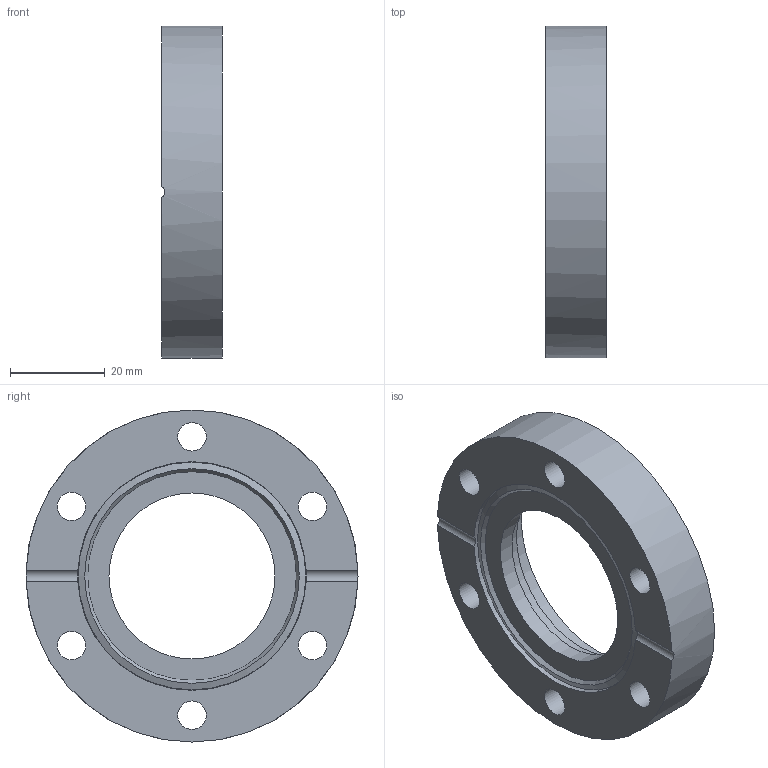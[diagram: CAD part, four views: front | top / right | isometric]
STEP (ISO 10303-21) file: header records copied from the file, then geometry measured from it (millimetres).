
FILE_DESCRIPTION( ( 'Unknown' ), '1' );
FILE_NAME( 'X:/Daten ( aktueller Bestand )/Projekte und Zeichnungen/Solid Edge/STP-Dateien/CF-Teile/7512R3G4.stp', 'Unknown', ( 'Unknown' ), ( 'Unknown' ), 'PSStep 14.0', 'Unknown', ' ' );
FILE_SCHEMA( ( 'AUTOMOTIVE_DESIGN { 1 0 10303 214 1 1 1 1 }' ) );
Length unit declared in the file: millimetre
Products named in the file (3): Assem1; 7512R3-2; 7512R3G-1
Assembly tree (2 placements, depth 2):
  Assem1
    7512R3-2
    7512R3G-1
Bounding box: 12.7 x 70 x 70 mm (x, y, z)
Volume: 29614.5 mm3; surface area: 13721.1 mm2
Topology: 2 solids, 2 shells, 23 faces, 58 edges, 40 vertices
Faces by surface type: cylinder 14, plane 7, cone 2
Full cylindrical faces by diameter (mm): 6 x6, 35 x1, 38 x1, 45.3 x1, 48 x1, 48.2 x1, 70 x1
Entity records: 892 total; most frequent: CARTESIAN_POINT 154, DIRECTION 112, ORIENTED_EDGE 72, AXIS2_PLACEMENT_3D 54, EDGE_LOOP 54, EDGE_CURVE 36, FACE_OUTER_BOUND 35, VERTEX_POINT 32
